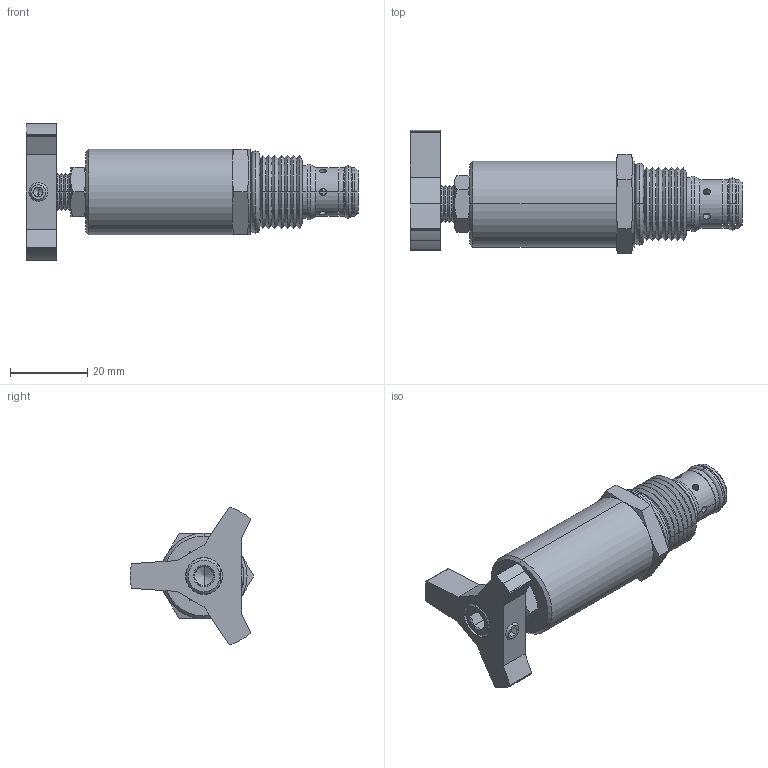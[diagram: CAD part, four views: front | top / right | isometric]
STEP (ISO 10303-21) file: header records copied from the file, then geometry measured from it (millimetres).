
FILE_DESCRIPTION((''),'2;1');
FILE_NAME('U:\Solid model CD\Solid model full\Mechanical\STEP\PBRWA0K-3D Full.stp','2008-07-29T09:53:59',('Dan'),(''),'Autodesk Inventor 9','Autodesk Inventor 9','');
FILE_SCHEMA(('AUTOMOTIVE_DESIGN { 1 0 10303 214 1 1 1 1 }'));
Length unit declared in the file: inch
Products named in the file (7): PBRWA0K-3D Full; PBRWA0K-3D Full1; PBRWA0K-3D Full2; PBRWA0K-3D Full3; PBRWA0K-3D Full4; PBRWA0K-3D Full5; PBRWA0K-3D Full6
Assembly tree (6 placements, depth 2):
  PBRWA0K-3D Full
    PBRWA0K-3D Full1
    PBRWA0K-3D Full2
    PBRWA0K-3D Full3
    PBRWA0K-3D Full4
    PBRWA0K-3D Full5
    PBRWA0K-3D Full6
Bounding box: 85.8 x 31.88 x 35.54 mm (x, y, z)
Volume: 26036.2 mm3; surface area: 9553.6 mm2
Topology: 6 solids, 6 shells, 315 faces, 715 edges, 415 vertices
Faces by surface type: cone 168, plane 71, cylinder 62, bspline 10, torus 4
Entity records: 9447 total; most frequent: CARTESIAN_POINT 2353, DIRECTION 1522, ORIENTED_EDGE 1426, EDGE_CURVE 713, AXIS2_PLACEMENT_3D 617, VERTEX_POINT 415, EDGE_LOOP 342, FACE_OUTER_BOUND 315
